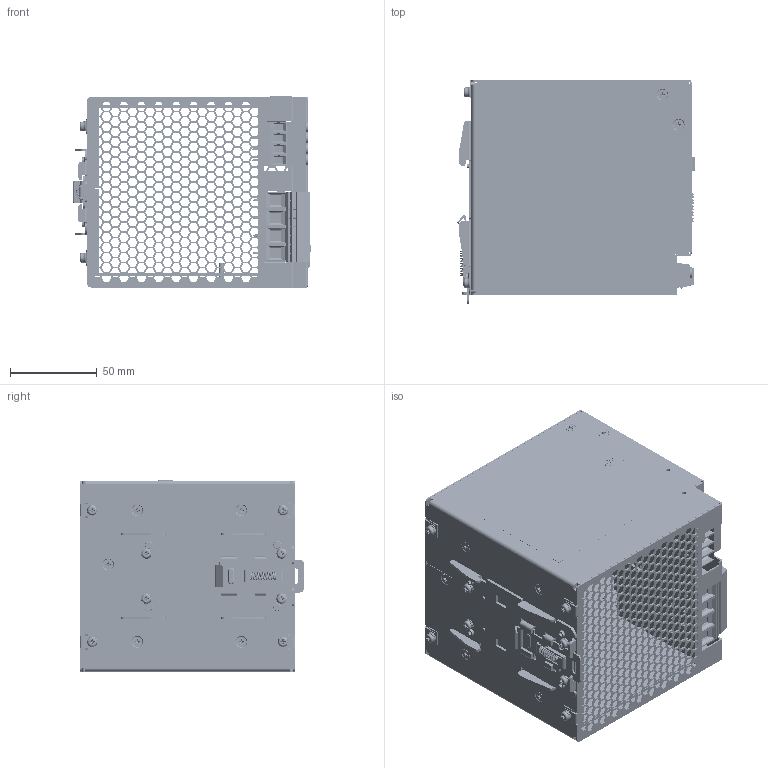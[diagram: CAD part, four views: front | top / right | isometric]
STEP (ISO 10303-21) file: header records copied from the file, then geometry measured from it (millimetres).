
FILE_DESCRIPTION((''),'2;1');
FILE_NAME('DRM-24V960W3PN-PD01_ASM','2020-04-28T',('Anothai'),(''),'PRO/ENGINEER BY PARAMETRIC TECHNOLOGY CORPORATION, 2010180','PRO/ENGINEER BY PARAMETRIC TECHNOLOGY CORPORATION, 2010180','');
FILE_SCHEMA(('CONFIG_CONTROL_DESIGN','SHAPE_APPEARANCE_LAYERS_GROUPS'));
Products named in the file (66): PWB_DC-TO-DC_BOARD; PWB_LAYOUT_MAIN_; PWB_ADC-125; LAYOUT_ADC-125; TSW_103_07_S_S_BODY; T_1S6_07_TSW_1_07_3_S; TSW_103_07_S_S_ASM; MTSW-106-07-LD-110-RA; MTSW_106_07_D_110_RA; MTSW_106_07_L_D_110_RA_ASM; VR1-2; LED-1; LED-2; 3074994040_MINI_JUMPER; 347181150101; PWB_ADC-125_ASM; PWB_OUTPUT_ADC-126; 307663307W_A_MH120-016M; 307663307W_A_MH120-016M4_2; 307663307W_MH120-016M404A301_1_ASM; 307663307W_ASM; PWB_OUTPUT_ADC-126_ASM; 334783470000; ASSY_HS3-MBD_ASM; 3461381401_STANDOFF_L3; 3461676000_STANDOFF_L45; 3073071546-0138-51-05P; 3073071546-DINKLE_0138-5105; 3073071546_ASM; 330344820000; 330344820000_ASM; SCREW_L6; SCREW_L5; 3105322400_L14; PWB_DC-TO-DC__ASM; PWB_PFC_ADC-118; LAYOUT_ADC-118_; STAND_OFF_M3; PWB_INPUT_ADC-117; PWB_LAYOUT_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
Assembly tree (87 placements, depth 6):
  DRM-24V960W3PN-PD01_ASM
    PWB_DC-TO-DC__ASM
      PWB_DC-TO-DC_BOARD
      PWB_LAYOUT_MAIN_
      PWB_ADC-125_ASM
        PWB_ADC-125
        LAYOUT_ADC-125
        TSW_103_07_S_S_ASM
          TSW_103_07_S_S_BODY
          T_1S6_07_TSW_1_07_3_S
        MTSW_106_07_L_D_110_RA_ASM
          MTSW-106-07-LD-110-RA
          MTSW_106_07_D_110_RA
        VR1-2
        LED-1
        LED-2
        3074994040_MINI_JUMPER
        347181150101
      PWB_OUTPUT_ADC-126_ASM
        PWB_OUTPUT_ADC-126
        307663307W_ASM
          307663307W_MH120-016M404A301_1_ASM
            307663307W_A_MH120-016M
            307663307W_A_MH120-016M4_2
      ASSY_HS3-MBD_ASM
        334783470000
      3461381401_STANDOFF_L3
      3461676000_STANDOFF_L45
      3073071546_ASM
        3073071546-0138-51-05P
        3073071546-DINKLE_0138-5105
      330344820000_ASM
        330344820000
      SCREW_L6  x3
      SCREW_L5  x2
      3105322400_L14
    PWB__PFC_ADC-118_ASM
      PWB_PFC_ADC-118
      LAYOUT_ADC-118_
      STAND_OFF_M3
      PWB_INPUT_ADC-117_ASM
        PWB_INPUT_ADC-117
        PWB_LAYOUT_
        307662647W_ASM
          307662647W_A1
          307662647W_A2
          307662647W_A3  x2
          307662647W_A4
      ASSY_HS2_PFC_ASM
        334783460000
      330344810000_ASM
        330344810000
        330344810000_A_STUD-
      SCREW_L6-2
      SCREW_L6  x3
      NUT_INSERT
    330344670101_ASM
      330344670101
    ASSY_LATCH_ASM
      346687370101
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Bounding box: 137.15 x 129.1 x 110.1 mm (x, y, z)
Volume: 265080.6 mm3; surface area: 329482.6 mm2
Topology: 67 solids, 67 shells, 13827 faces, 38161 edges, 24770 vertices
Faces by surface type: plane 10427, cylinder 1337, extrusion 1248, bspline 340, cone 301, torus 158, sphere 16
Entity records: 479114 total; most frequent: CARTESIAN_POINT 105755, ORIENTED_EDGE 71030, DIRECTION 58881, EDGE_CURVE 35515, VECTOR 30649, LINE 29401, VERTEX_POINT 23419, EDGE_LOOP 14866
